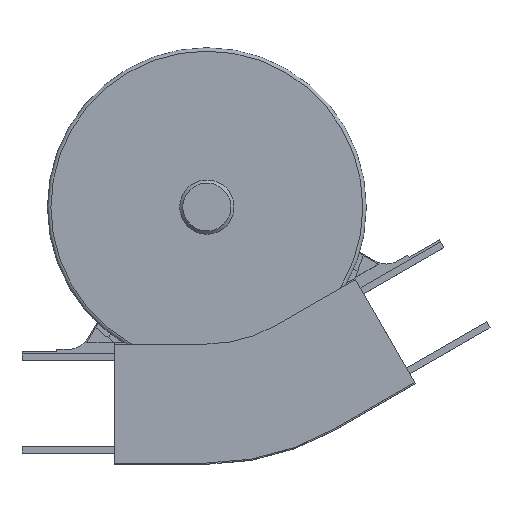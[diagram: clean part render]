
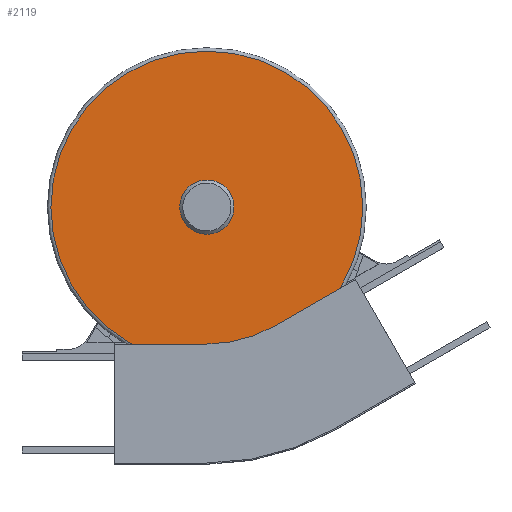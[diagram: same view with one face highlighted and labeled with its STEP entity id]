
A CAD part, top view. The second image highlights one B-rep face of the part: STEP entity #2119.
In plain terms, the highlighted planar face has unit normal (0, 0, 1).
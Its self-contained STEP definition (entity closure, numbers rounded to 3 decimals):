
#44=FACE_BOUND('',#347,.T.);
#83=CIRCLE('',#2281,21.);
#84=CIRCLE('',#2283,135.);
#218=FACE_OUTER_BOUND('',#346,.T.);
#346=EDGE_LOOP('',(#1799));
#347=EDGE_LOOP('',(#1800));
#1027=VERTEX_POINT('',#3369);
#1028=VERTEX_POINT('',#3373);
#1291=EDGE_CURVE('',#1027,#1027,#83,.T.);
#1293=EDGE_CURVE('',#1028,#1028,#84,.T.);
#1799=ORIENTED_EDGE('',*,*,#1293,.F.);
#1800=ORIENTED_EDGE('',*,*,#1291,.T.);
#2008=PLANE('',#2282);
#2119=ADVANCED_FACE('',(#218,#44),#2008,.T.);
#2281=AXIS2_PLACEMENT_3D('',#3370,#2754,#2755);
#2282=AXIS2_PLACEMENT_3D('',#3372,#2757,#2758);
#2283=AXIS2_PLACEMENT_3D('',#3374,#2759,#2760);
#2754=DIRECTION('center_axis',(0.,0.,-1.));
#2755=DIRECTION('ref_axis',(1.,0.,0.));
#2757=DIRECTION('center_axis',(0.,0.,1.));
#2758=DIRECTION('ref_axis',(1.,0.,0.));
#2759=DIRECTION('center_axis',(0.,0.,-1.));
#2760=DIRECTION('ref_axis',(1.,0.,0.));
#3369=CARTESIAN_POINT('',(85.435,149.716,39.));
#3370=CARTESIAN_POINT('Origin',(80.,170.,39.));
#3372=CARTESIAN_POINT('Origin',(45.059,300.4,39.));
#3373=CARTESIAN_POINT('',(215.,170.,39.));
#3374=CARTESIAN_POINT('Origin',(80.,170.,39.));
